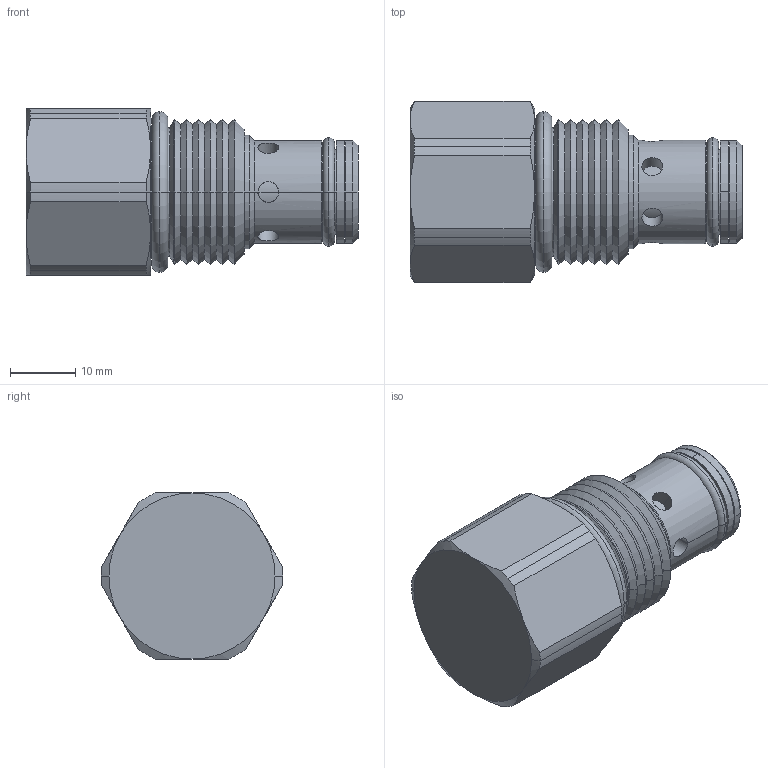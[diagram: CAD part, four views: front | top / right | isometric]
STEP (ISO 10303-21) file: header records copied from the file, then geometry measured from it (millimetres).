
FILE_DESCRIPTION((''),'2;1');
FILE_NAME('U:\Solid model CD\Solid model full\Mechanical\STEP\DECVF00-3D Full.stp','2008-07-28T16:00:18',('Dan'),(''),'Autodesk Inventor 9','Autodesk Inventor 9','');
FILE_SCHEMA(('AUTOMOTIVE_DESIGN { 1 0 10303 214 1 1 1 1 }'));
Length unit declared in the file: inch
Products named in the file (5): DECVF00-3D Full; DECVF00-3D Full1; DECVF00-3D Full2; DECVF00-3D Full3; DECVF00-3D Full4
Assembly tree (4 placements, depth 2):
  DECVF00-3D Full
    DECVF00-3D Full1
    DECVF00-3D Full2
    DECVF00-3D Full3
    DECVF00-3D Full4
Bounding box: 50.75 x 27.76 x 25.4 mm (x, y, z)
Volume: 18949 mm3; surface area: 6056.9 mm2
Topology: 4 solids, 4 shells, 118 faces, 267 edges, 158 vertices
Faces by surface type: cylinder 48, cone 46, plane 14, torus 8, sphere 2
Entity records: 3726 total; most frequent: CARTESIAN_POINT 1016, DIRECTION 576, ORIENTED_EDGE 526, EDGE_CURVE 263, AXIS2_PLACEMENT_3D 246, VERTEX_POINT 158, EDGE_LOOP 129, CIRCLE 119
